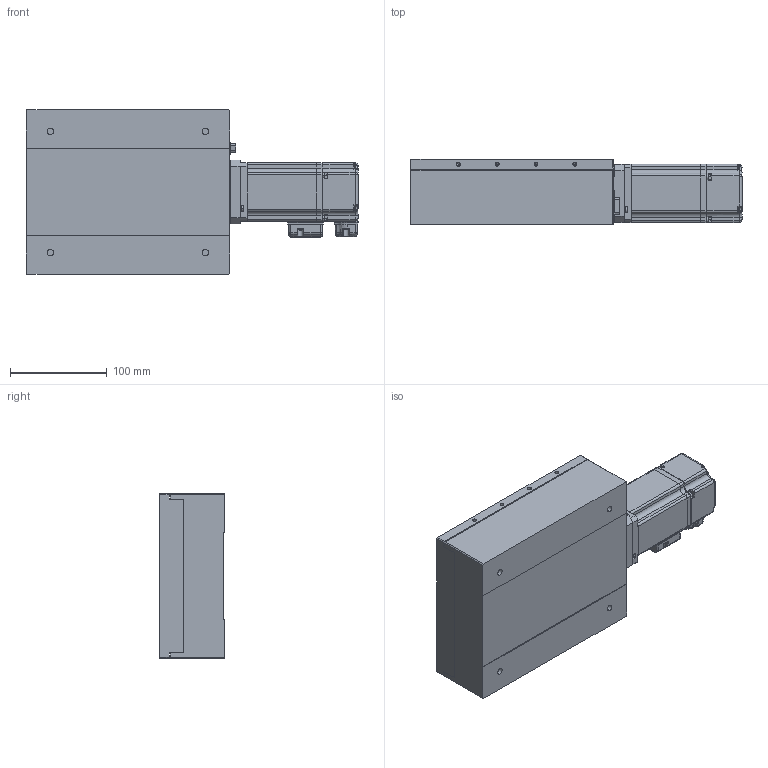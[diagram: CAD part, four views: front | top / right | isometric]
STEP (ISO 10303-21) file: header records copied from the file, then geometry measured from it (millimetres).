
FILE_DESCRIPTION (( 'STEP AP203' ), '1' );
FILE_NAME ('NPS-AC-40-05x.STEP', '2019-09-11T06:38:53', ( '' ), ( '' ), 'SwSTEP 2.0', 'SolidWorks 2015', '' );
FILE_SCHEMA (( 'CONFIG_CONTROL_DESIGN' ));
Length unit declared in the file: millimetre
Products named in the file (3): NPS-AC-40-05x_移動部; NPS-AC-40-05x_固定部; NPS-AC-40-05x
Assembly tree (2 placements, depth 2):
  NPS-AC-40-05x
    NPS-AC-40-05x_移動部
    NPS-AC-40-05x_固定部
Bounding box: 342.5 x 67 x 170 mm (x, y, z)
Volume: 789359.3 mm3; surface area: 274840.8 mm2
Topology: 1 solids, 36 shells, 1020 faces, 2886 edges, 1915 vertices
Faces by surface type: cylinder 394, plane 390, torus 96, bspline 49, cone 47, sphere 44
Entity records: 41269 total; most frequent: CARTESIAN_POINT 15413, DIRECTION 5332, ORIENTED_EDGE 4992, EDGE_CURVE 2827, AXIS2_PLACEMENT_3D 1949, VERTEX_POINT 1895, VECTOR 1434, LINE 1434
